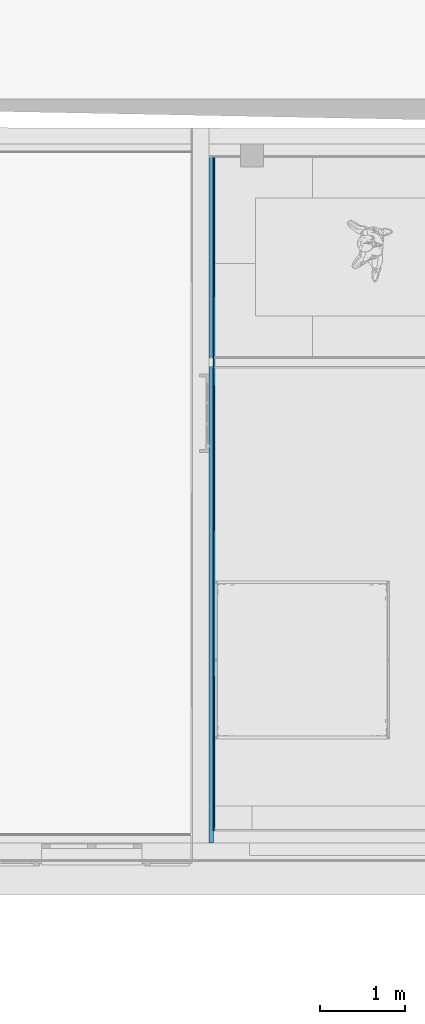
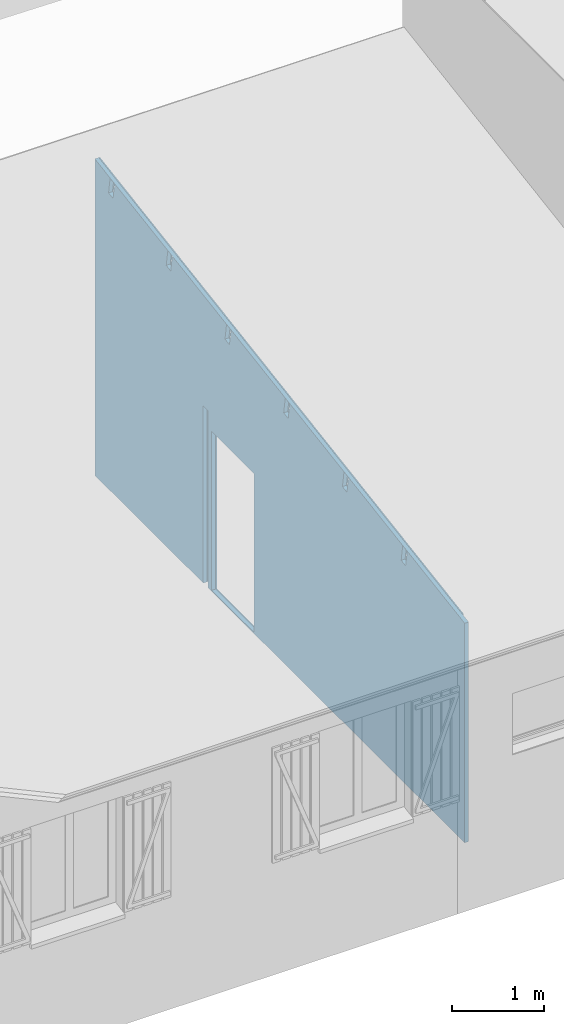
# One storey, part 12 of 24: 2 building element parts, 1 opening, 1 element without a shape of its own.
"""IFC2X3 building model written with IfcOpenShell, lengths in metres."""

from ifc_helpers import new_model, entity, si_unit, converted_unit, derived_unit, money_unit, direction, frame, origin_with_axes, origin_2d_with_axis, place, context, subcontext, project, spatial, polyline, rectangle, outline, extrude, boolean, faceted_brep, material, type_object, element, aggregate, save


model = new_model("IFC2X3")

# Units and contexts
model_context = context("Model", 3, precision=1e-05, world=origin_with_axes(), true_north=direction((0.0, 1.0)))
body_context = subcontext(model_context, "Body", "Model", "MODEL_VIEW")
ifc_project = project(units=[si_unit("LENGTHUNIT", "METRE"), si_unit("AREAUNIT", "SQUARE_METRE"), si_unit("VOLUMEUNIT", "CUBIC_METRE"), converted_unit("PLANEANGLEUNIT", "DEGREE", entity("IfcPlaneAngleMeasure", 0.0174532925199), si_unit("PLANEANGLEUNIT", "RADIAN"), dimensions=[0, 0, 0, 0, 0, 0, 0]), si_unit("SOLIDANGLEUNIT", "STERADIAN"), money_unit("CHF"), converted_unit("TIMEUNIT", "Year", entity("IfcTimeMeasure", 31556926.0), si_unit("TIMEUNIT", "SECOND"), dimensions=[0, 0, 1, 0, 0, 0, 0]), si_unit("MASSUNIT", "GRAM", prefix="KILO"), si_unit("THERMODYNAMICTEMPERATUREUNIT", "DEGREE_CELSIUS"), si_unit("LUMINOUSINTENSITYUNIT", "LUMEN"), si_unit("ENERGYUNIT", "JOULE", prefix="MEGA"), derived_unit("THERMALCONDUCTANCEUNIT", [(si_unit("POWERUNIT", "WATT"), 1), (si_unit("LENGTHUNIT", "METRE"), -1), (si_unit("THERMODYNAMICTEMPERATUREUNIT", "KELVIN"), -1)]), derived_unit("SPECIFICHEATCAPACITYUNIT", [(si_unit("ENERGYUNIT", "JOULE"), 1), (si_unit("MASSUNIT", "GRAM", prefix="KILO"), -1), (si_unit("THERMODYNAMICTEMPERATUREUNIT", "KELVIN"), -1)]), derived_unit("MASSDENSITYUNIT", [(si_unit("MASSUNIT", "GRAM", prefix="KILO"), 1), (si_unit("VOLUMEUNIT", "CUBIC_METRE"), -1)])], contexts=[model_context])

# Site, building, storey
site_placement = place(None, origin_with_axes())
site = spatial("IfcSite", under=ifc_project, at=site_placement, Name="Site", CompositionType="ELEMENT")
building_placement = place(site_placement, origin_with_axes())
building = spatial("IfcBuilding", under=site, at=building_placement, Name="Bâtiment", CompositionType="ELEMENT")
storey_placement = place(building_placement, origin_with_axes())
storey = spatial("IfcBuildingStorey", under=building, at=storey_placement, Name="Rez-de-chaussée", CompositionType="ELEMENT", Elevation=0.0)

# Wall, opening, building element parts
wall_type = type_object("IfcWallType", Name="3.3d - Cloison doublage collé de 5cm 65", PredefinedType="ELEMENTEDWALL")
wall_placement = place(storey_placement, frame((23.6021417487, 7.9529346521, -0.13), z_axis=(0.0, 0.0, 1.0), x_axis=(0.0, 1.0, 0.0)))
wall = element("IfcWall", 1, at=wall_placement, inside=storey, type_object=wall_type, Name="MUR_EXT-011", ObjectType="ELEMENTEDWALL")
opening_placement = place(wall_placement, frame((5.065, 0.0, 0.29), z_axis=(0.0, 0.0, 1.0), x_axis=(1.0, 0.0, 0.0)))
element("IfcOpeningElement", 2, at=opening_placement, cuts=wall, Name="PORTE-007", context=body_context, shape_type="SweptSolid", body=[
    extrude(rectangle(XDim=0.93, YDim=2.12, at=origin_2d_with_axis()), frame((0.0, 0.065, 1.06), z_axis=(0.0, -1.0, 0.0), x_axis=(1.0, 0.0, 0.0)), (0.0, 0.0, 1.0), 0.195),
])
ifc_material_1 = material(Name="Finition int - Plaque de plâtre")
building_element_part_1_placement = place(wall_placement, origin_with_axes())
solid_1 = boolean("DIFFERENCE", boolean("DIFFERENCE", boolean("DIFFERENCE", boolean("DIFFERENCE", boolean("DIFFERENCE", boolean("DIFFERENCE", boolean("DIFFERENCE", boolean("DIFFERENCE", extrude(outline(polyline([(-0.215, -0.065), (8.085, -0.065), (8.085, -0.05), (-0.215, -0.05), (-0.215, -0.065)])), origin_with_axes(), (0.0, 0.0, 1.0), 6.01874511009), faceted_brep([(1.25499229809, -0.05, 3.40376334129), (1.35373643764, -0.05, 3.41956191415), (1.38849329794, -0.05, 3.20232480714), (1.28974915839, -0.05, 3.18652623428), (1.25499229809, -0.065, 3.40376334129), (1.35373643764, -0.065, 3.41956191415), (1.38849329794, -0.065, 3.20232480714), (1.28974915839, -0.065, 3.18652623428)], [[[0, 1, 2, 3]], [[4, 5, 1, 0]], [[5, 6, 2, 1]], [[6, 7, 3, 2]], [[7, 4, 0, 3]], [[4, 7, 6, 5]]])), faceted_brep([(2.53866611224, -0.05, 3.6091447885), (2.63741025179, -0.05, 3.62494336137), (2.67216711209, -0.05, 3.40770625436), (2.57342297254, -0.05, 3.39190768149), (2.53866611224, -0.065, 3.6091447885), (2.63741025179, -0.065, 3.62494336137), (2.67216711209, -0.065, 3.40770625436), (2.57342297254, -0.065, 3.39190768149)], [[[0, 1, 2, 3]], [[4, 5, 1, 0]], [[5, 6, 2, 1]], [[6, 7, 3, 2]], [[7, 4, 0, 3]], [[4, 7, 6, 5]]])), faceted_brep([(3.8223399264, -0.05, 3.81452623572), (3.92108406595, -0.05, 3.83032480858), (3.95584092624, -0.05, 3.61308770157), (3.85709678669, -0.05, 3.59728912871), (3.8223399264, -0.065, 3.81452623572), (3.92108406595, -0.065, 3.83032480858), (3.95584092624, -0.065, 3.61308770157), (3.85709678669, -0.065, 3.59728912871)], [[[0, 1, 2, 3]], [[4, 5, 1, 0]], [[5, 6, 2, 1]], [[6, 7, 3, 2]], [[7, 4, 0, 3]], [[4, 7, 6, 5]]])), faceted_brep([(5.10601374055, -0.05, 4.01990768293), (5.2047578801, -0.05, 4.0357062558), (5.2395147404, -0.05, 3.81846914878), (5.14077060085, -0.05, 3.80267057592), (5.10601374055, -0.065, 4.01990768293), (5.2047578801, -0.065, 4.0357062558), (5.2395147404, -0.065, 3.81846914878), (5.14077060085, -0.065, 3.80267057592)], [[[0, 1, 2, 3]], [[4, 5, 1, 0]], [[5, 6, 2, 1]], [[6, 7, 3, 2]], [[7, 4, 0, 3]], [[4, 7, 6, 5]]])), faceted_brep([(6.3896875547, -0.05, 4.22528913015), (6.48843169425, -0.05, 4.24108770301), (6.52318855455, -0.05, 4.023850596), (6.424444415, -0.05, 4.00805202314), (6.3896875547, -0.065, 4.22528913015), (6.48843169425, -0.065, 4.24108770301), (6.52318855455, -0.065, 4.023850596), (6.424444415, -0.065, 4.00805202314)], [[[0, 1, 2, 3]], [[4, 5, 1, 0]], [[5, 6, 2, 1]], [[6, 7, 3, 2]], [[7, 4, 0, 3]], [[4, 7, 6, 5]]])), faceted_brep([(7.65083260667, -0.05, 4.42706608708), (7.74957674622, -0.05, 4.44286465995), (7.78433360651, -0.05, 4.22562755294), (7.68558946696, -0.05, 4.20982898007), (7.65083260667, -0.065, 4.42706608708), (7.74957674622, -0.065, 4.44286465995), (7.78433360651, -0.065, 4.22562755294), (7.68558946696, -0.065, 4.20982898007)], [[[0, 1, 2, 3]], [[4, 5, 1, 0]], [[5, 6, 2, 1]], [[6, 7, 3, 2]], [[7, 4, 0, 3]], [[4, 7, 6, 5]]])), faceted_brep([(0.140000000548, -0.065, 0.275), (0.140000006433, -0.065, 3.22680000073), (8.085, -0.065, 4.4979999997), (8.085, -0.065, 6.01874511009), (-0.215, -0.065, 6.01874511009), (-0.215, -0.065, 0.0), (8.085, -0.065, 0.0), (8.085, -0.065, 0.275), (5.71440608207, -0.065, 0.275), (5.71440608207, -0.065, 2.63999999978), (5.61440608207, -0.065, 2.63999999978), (5.61440608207, -0.065, 0.275), (0.14000000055, -0.05, 0.275), (0.140000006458, -0.05, 3.22680000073), (8.085, -0.05, 4.4979999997), (8.085, -0.05, 6.01874511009), (-0.215, -0.05, 6.01874511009), (-0.215, -0.05, 0.0), (8.085, -0.05, 0.0), (8.085, -0.05, 0.275), (5.71440608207, -0.05, 0.275), (5.71440608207, -0.05, 2.63999999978), (5.61440608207, -0.05, 2.63999999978), (5.61440608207, -0.05, 0.275)], [[[0, 1, 2, 3, 4, 5, 6, 7, 8, 9, 10, 11]], [[1, 0, 12, 13]], [[14, 2, 1, 13]], [[2, 14, 15, 3]], [[16, 4, 3, 15]], [[16, 17, 5, 4]], [[6, 5, 17, 18]], [[19, 7, 6, 18]], [[8, 7, 19, 20]], [[9, 8, 20, 21]], [[10, 9, 21, 22]], [[11, 10, 22, 23]], [[0, 11, 23, 12]], [[20, 19, 18, 17, 16, 15, 14, 13, 12, 23, 22, 21]]])), faceted_brep([(1.25499229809, 0.0, 3.40376334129), (1.35373643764, 0.0, 3.41956191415), (1.38849329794, 0.0, 3.20232480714), (1.28974915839, 0.0, 3.18652623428), (1.25499229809, -0.05, 3.40376334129), (1.35373643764, -0.05, 3.41956191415), (1.38849329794, -0.05, 3.20232480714), (1.28974915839, -0.05, 3.18652623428)], [[[0, 1, 2, 3]], [[1, 0, 4, 5]], [[2, 1, 5, 6]], [[3, 2, 6, 7]], [[0, 3, 7, 4]], [[4, 7, 6, 5]]]))
building_element_part_1 = element("IfcBuildingElementPart", 3, at=building_element_part_1_placement, material=ifc_material_1, Name="Finition int - Plaque de plâtre", context=body_context, shape_type="CSG", body=[
    boolean("DIFFERENCE", boolean("DIFFERENCE", boolean("DIFFERENCE", boolean("DIFFERENCE", boolean("DIFFERENCE", boolean("DIFFERENCE", solid_1, faceted_brep([(2.53866611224, 0.0, 3.6091447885), (2.63741025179, 0.0, 3.62494336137), (2.67216711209, 0.0, 3.40770625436), (2.57342297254, 0.0, 3.39190768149), (2.53866611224, -0.05, 3.6091447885), (2.63741025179, -0.05, 3.62494336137), (2.67216711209, -0.05, 3.40770625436), (2.57342297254, -0.05, 3.39190768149)], [[[0, 1, 2, 3]], [[1, 0, 4, 5]], [[2, 1, 5, 6]], [[3, 2, 6, 7]], [[0, 3, 7, 4]], [[4, 7, 6, 5]]])), faceted_brep([(3.8223399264, 0.0, 3.81452623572), (3.92108406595, 0.0, 3.83032480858), (3.95584092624, 0.0, 3.61308770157), (3.85709678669, 0.0, 3.59728912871), (3.8223399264, -0.05, 3.81452623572), (3.92108406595, -0.05, 3.83032480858), (3.95584092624, -0.05, 3.61308770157), (3.85709678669, -0.05, 3.59728912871)], [[[0, 1, 2, 3]], [[1, 0, 4, 5]], [[2, 1, 5, 6]], [[3, 2, 6, 7]], [[0, 3, 7, 4]], [[4, 7, 6, 5]]])), faceted_brep([(5.10601374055, 0.0, 4.01990768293), (5.2047578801, 0.0, 4.0357062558), (5.2395147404, 0.0, 3.81846914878), (5.14077060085, 0.0, 3.80267057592), (5.10601374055, -0.05, 4.01990768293), (5.2047578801, -0.05, 4.0357062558), (5.2395147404, -0.05, 3.81846914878), (5.14077060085, -0.05, 3.80267057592)], [[[0, 1, 2, 3]], [[1, 0, 4, 5]], [[2, 1, 5, 6]], [[3, 2, 6, 7]], [[0, 3, 7, 4]], [[4, 7, 6, 5]]])), faceted_brep([(6.3896875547, 0.0, 4.22528913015), (6.48843169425, 0.0, 4.24108770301), (6.52318855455, 0.0, 4.023850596), (6.424444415, 0.0, 4.00805202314), (6.3896875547, -0.05, 4.22528913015), (6.48843169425, -0.05, 4.24108770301), (6.52318855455, -0.05, 4.023850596), (6.424444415, -0.05, 4.00805202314)], [[[0, 1, 2, 3]], [[1, 0, 4, 5]], [[2, 1, 5, 6]], [[3, 2, 6, 7]], [[0, 3, 7, 4]], [[4, 7, 6, 5]]])), faceted_brep([(7.65083260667, 0.0, 4.42706608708), (7.74957674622, 0.0, 4.44286465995), (7.78433360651, 0.0, 4.22562755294), (7.68558946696, 0.0, 4.20982898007), (7.65083260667, -0.05, 4.42706608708), (7.74957674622, -0.05, 4.44286465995), (7.78433360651, -0.05, 4.22562755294), (7.68558946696, -0.05, 4.20982898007)], [[[0, 1, 2, 3]], [[1, 0, 4, 5]], [[2, 1, 5, 6]], [[3, 2, 6, 7]], [[0, 3, 7, 4]], [[4, 7, 6, 5]]])), faceted_brep([(0.0, -0.05, 3.2043999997), (8.085, -0.05, 4.4979999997), (8.085, -0.05, 6.01874511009), (-0.215, -0.05, 6.01874511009), (-0.215, -0.05, 0.0), (8.085, -0.05, 0.0), (8.085, -0.05, 0.275), (5.71440608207, -0.05, 0.275), (5.71440608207, -0.05, 2.63999999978), (5.61440608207, -0.05, 2.63999999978), (5.61440608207, -0.05, 0.275), (0.0, -0.05, 0.275), (8.085, 0.0, 4.4979999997), (0.0, 0.0, 3.2043999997), (8.085, 0.0, 6.01874511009), (-0.215, 0.0, 6.01874511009), (-0.215, 0.0, 0.0), (8.085, 0.0, 0.0), (8.085, 0.0, 0.275), (5.71440608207, 0.0, 0.275), (5.71440608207, -3.70959689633e-08, 2.63999999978), (5.61440608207, -3.64703396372e-08, 2.63999999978), (5.61440608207, 0.0, 0.275), (0.0, 0.0, 0.275)], [[[0, 1, 2, 3, 4, 5, 6, 7, 8, 9, 10, 11]], [[12, 1, 0, 13]], [[1, 12, 14, 2]], [[15, 3, 2, 14]], [[15, 16, 4, 3]], [[5, 4, 16, 17]], [[18, 6, 5, 17]], [[6, 18, 19, 7]], [[19, 20, 8, 7]], [[20, 21, 9, 8]], [[21, 22, 10, 9]], [[11, 10, 22, 23]], [[0, 11, 23, 13]], [[19, 18, 17, 16, 15, 14, 12, 13, 23, 22, 21, 20]]])),
])
ifc_material_2 = material(Name="Cloison - Isolation")
building_element_part_2_placement = place(wall_placement, origin_with_axes())
solid_2 = boolean("DIFFERENCE", boolean("DIFFERENCE", boolean("DIFFERENCE", boolean("DIFFERENCE", boolean("DIFFERENCE", boolean("DIFFERENCE", boolean("DIFFERENCE", boolean("DIFFERENCE", extrude(outline(polyline([(-0.215, -0.05), (8.085, -0.05), (8.085, 0.0), (-0.215, 0.0), (-0.215, -0.05)])), origin_with_axes(), (0.0, 0.0, 1.0), 6.01874511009), faceted_brep([(1.25499229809, -0.05, 3.40376334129), (1.35373643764, -0.05, 3.41956191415), (1.38849329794, -0.05, 3.20232480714), (1.28974915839, -0.05, 3.18652623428), (1.25499229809, -0.065, 3.40376334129), (1.35373643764, -0.065, 3.41956191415), (1.38849329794, -0.065, 3.20232480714), (1.28974915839, -0.065, 3.18652623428)], [[[0, 1, 2, 3]], [[4, 5, 1, 0]], [[5, 6, 2, 1]], [[6, 7, 3, 2]], [[7, 4, 0, 3]], [[4, 7, 6, 5]]])), faceted_brep([(2.53866611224, -0.05, 3.6091447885), (2.63741025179, -0.05, 3.62494336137), (2.67216711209, -0.05, 3.40770625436), (2.57342297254, -0.05, 3.39190768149), (2.53866611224, -0.065, 3.6091447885), (2.63741025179, -0.065, 3.62494336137), (2.67216711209, -0.065, 3.40770625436), (2.57342297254, -0.065, 3.39190768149)], [[[0, 1, 2, 3]], [[4, 5, 1, 0]], [[5, 6, 2, 1]], [[6, 7, 3, 2]], [[7, 4, 0, 3]], [[4, 7, 6, 5]]])), faceted_brep([(3.8223399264, -0.05, 3.81452623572), (3.92108406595, -0.05, 3.83032480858), (3.95584092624, -0.05, 3.61308770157), (3.85709678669, -0.05, 3.59728912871), (3.8223399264, -0.065, 3.81452623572), (3.92108406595, -0.065, 3.83032480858), (3.95584092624, -0.065, 3.61308770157), (3.85709678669, -0.065, 3.59728912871)], [[[0, 1, 2, 3]], [[4, 5, 1, 0]], [[5, 6, 2, 1]], [[6, 7, 3, 2]], [[7, 4, 0, 3]], [[4, 7, 6, 5]]])), faceted_brep([(5.10601374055, -0.05, 4.01990768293), (5.2047578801, -0.05, 4.0357062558), (5.2395147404, -0.05, 3.81846914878), (5.14077060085, -0.05, 3.80267057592), (5.10601374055, -0.065, 4.01990768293), (5.2047578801, -0.065, 4.0357062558), (5.2395147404, -0.065, 3.81846914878), (5.14077060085, -0.065, 3.80267057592)], [[[0, 1, 2, 3]], [[4, 5, 1, 0]], [[5, 6, 2, 1]], [[6, 7, 3, 2]], [[7, 4, 0, 3]], [[4, 7, 6, 5]]])), faceted_brep([(6.3896875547, -0.05, 4.22528913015), (6.48843169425, -0.05, 4.24108770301), (6.52318855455, -0.05, 4.023850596), (6.424444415, -0.05, 4.00805202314), (6.3896875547, -0.065, 4.22528913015), (6.48843169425, -0.065, 4.24108770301), (6.52318855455, -0.065, 4.023850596), (6.424444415, -0.065, 4.00805202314)], [[[0, 1, 2, 3]], [[4, 5, 1, 0]], [[5, 6, 2, 1]], [[6, 7, 3, 2]], [[7, 4, 0, 3]], [[4, 7, 6, 5]]])), faceted_brep([(7.65083260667, -0.05, 4.42706608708), (7.74957674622, -0.05, 4.44286465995), (7.78433360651, -0.05, 4.22562755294), (7.68558946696, -0.05, 4.20982898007), (7.65083260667, -0.065, 4.42706608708), (7.74957674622, -0.065, 4.44286465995), (7.78433360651, -0.065, 4.22562755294), (7.68558946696, -0.065, 4.20982898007)], [[[0, 1, 2, 3]], [[4, 5, 1, 0]], [[5, 6, 2, 1]], [[6, 7, 3, 2]], [[7, 4, 0, 3]], [[4, 7, 6, 5]]])), faceted_brep([(0.140000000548, -0.065, 0.275), (0.140000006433, -0.065, 3.22680000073), (8.085, -0.065, 4.4979999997), (8.085, -0.065, 6.01874511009), (-0.215, -0.065, 6.01874511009), (-0.215, -0.065, 0.0), (8.085, -0.065, 0.0), (8.085, -0.065, 0.275), (5.71440608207, -0.065, 0.275), (5.71440608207, -0.065, 2.63999999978), (5.61440608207, -0.065, 2.63999999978), (5.61440608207, -0.065, 0.275), (0.14000000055, -0.05, 0.275), (0.140000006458, -0.05, 3.22680000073), (8.085, -0.05, 4.4979999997), (8.085, -0.05, 6.01874511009), (-0.215, -0.05, 6.01874511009), (-0.215, -0.05, 0.0), (8.085, -0.05, 0.0), (8.085, -0.05, 0.275), (5.71440608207, -0.05, 0.275), (5.71440608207, -0.05, 2.63999999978), (5.61440608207, -0.05, 2.63999999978), (5.61440608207, -0.05, 0.275)], [[[0, 1, 2, 3, 4, 5, 6, 7, 8, 9, 10, 11]], [[1, 0, 12, 13]], [[14, 2, 1, 13]], [[2, 14, 15, 3]], [[16, 4, 3, 15]], [[16, 17, 5, 4]], [[6, 5, 17, 18]], [[19, 7, 6, 18]], [[8, 7, 19, 20]], [[9, 8, 20, 21]], [[10, 9, 21, 22]], [[11, 10, 22, 23]], [[0, 11, 23, 12]], [[20, 19, 18, 17, 16, 15, 14, 13, 12, 23, 22, 21]]])), faceted_brep([(1.25499229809, 0.0, 3.40376334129), (1.35373643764, 0.0, 3.41956191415), (1.38849329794, 0.0, 3.20232480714), (1.28974915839, 0.0, 3.18652623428), (1.25499229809, -0.05, 3.40376334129), (1.35373643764, -0.05, 3.41956191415), (1.38849329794, -0.05, 3.20232480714), (1.28974915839, -0.05, 3.18652623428)], [[[0, 1, 2, 3]], [[1, 0, 4, 5]], [[2, 1, 5, 6]], [[3, 2, 6, 7]], [[0, 3, 7, 4]], [[4, 7, 6, 5]]]))
building_element_part_2 = element("IfcBuildingElementPart", 4, at=building_element_part_2_placement, material=ifc_material_2, Name="Cloison - Isolation", context=body_context, shape_type="CSG", body=[
    boolean("DIFFERENCE", boolean("DIFFERENCE", boolean("DIFFERENCE", boolean("DIFFERENCE", boolean("DIFFERENCE", boolean("DIFFERENCE", solid_2, faceted_brep([(2.53866611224, 0.0, 3.6091447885), (2.63741025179, 0.0, 3.62494336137), (2.67216711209, 0.0, 3.40770625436), (2.57342297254, 0.0, 3.39190768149), (2.53866611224, -0.05, 3.6091447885), (2.63741025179, -0.05, 3.62494336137), (2.67216711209, -0.05, 3.40770625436), (2.57342297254, -0.05, 3.39190768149)], [[[0, 1, 2, 3]], [[1, 0, 4, 5]], [[2, 1, 5, 6]], [[3, 2, 6, 7]], [[0, 3, 7, 4]], [[4, 7, 6, 5]]])), faceted_brep([(3.8223399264, 0.0, 3.81452623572), (3.92108406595, 0.0, 3.83032480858), (3.95584092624, 0.0, 3.61308770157), (3.85709678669, 0.0, 3.59728912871), (3.8223399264, -0.05, 3.81452623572), (3.92108406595, -0.05, 3.83032480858), (3.95584092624, -0.05, 3.61308770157), (3.85709678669, -0.05, 3.59728912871)], [[[0, 1, 2, 3]], [[1, 0, 4, 5]], [[2, 1, 5, 6]], [[3, 2, 6, 7]], [[0, 3, 7, 4]], [[4, 7, 6, 5]]])), faceted_brep([(5.10601374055, 0.0, 4.01990768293), (5.2047578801, 0.0, 4.0357062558), (5.2395147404, 0.0, 3.81846914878), (5.14077060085, 0.0, 3.80267057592), (5.10601374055, -0.05, 4.01990768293), (5.2047578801, -0.05, 4.0357062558), (5.2395147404, -0.05, 3.81846914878), (5.14077060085, -0.05, 3.80267057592)], [[[0, 1, 2, 3]], [[1, 0, 4, 5]], [[2, 1, 5, 6]], [[3, 2, 6, 7]], [[0, 3, 7, 4]], [[4, 7, 6, 5]]])), faceted_brep([(6.3896875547, 0.0, 4.22528913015), (6.48843169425, 0.0, 4.24108770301), (6.52318855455, 0.0, 4.023850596), (6.424444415, 0.0, 4.00805202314), (6.3896875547, -0.05, 4.22528913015), (6.48843169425, -0.05, 4.24108770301), (6.52318855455, -0.05, 4.023850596), (6.424444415, -0.05, 4.00805202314)], [[[0, 1, 2, 3]], [[1, 0, 4, 5]], [[2, 1, 5, 6]], [[3, 2, 6, 7]], [[0, 3, 7, 4]], [[4, 7, 6, 5]]])), faceted_brep([(7.65083260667, 0.0, 4.42706608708), (7.74957674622, 0.0, 4.44286465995), (7.78433360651, 0.0, 4.22562755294), (7.68558946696, 0.0, 4.20982898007), (7.65083260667, -0.05, 4.42706608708), (7.74957674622, -0.05, 4.44286465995), (7.78433360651, -0.05, 4.22562755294), (7.68558946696, -0.05, 4.20982898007)], [[[0, 1, 2, 3]], [[1, 0, 4, 5]], [[2, 1, 5, 6]], [[3, 2, 6, 7]], [[0, 3, 7, 4]], [[4, 7, 6, 5]]])), faceted_brep([(0.0, -0.05, 3.2043999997), (8.085, -0.05, 4.4979999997), (8.085, -0.05, 6.01874511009), (-0.215, -0.05, 6.01874511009), (-0.215, -0.05, 0.0), (8.085, -0.05, 0.0), (8.085, -0.05, 0.275), (5.71440608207, -0.05, 0.275), (5.71440608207, -0.05, 2.63999999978), (5.61440608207, -0.05, 2.63999999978), (5.61440608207, -0.05, 0.275), (0.0, -0.05, 0.275), (8.085, 0.0, 4.4979999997), (0.0, 0.0, 3.2043999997), (8.085, 0.0, 6.01874511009), (-0.215, 0.0, 6.01874511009), (-0.215, 0.0, 0.0), (8.085, 0.0, 0.0), (8.085, 0.0, 0.275), (5.71440608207, 0.0, 0.275), (5.71440608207, -3.70959689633e-08, 2.63999999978), (5.61440608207, -3.64703396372e-08, 2.63999999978), (5.61440608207, 0.0, 0.275), (0.0, 0.0, 0.275)], [[[0, 1, 2, 3, 4, 5, 6, 7, 8, 9, 10, 11]], [[12, 1, 0, 13]], [[1, 12, 14, 2]], [[15, 3, 2, 14]], [[15, 16, 4, 3]], [[5, 4, 16, 17]], [[18, 6, 5, 17]], [[6, 18, 19, 7]], [[19, 20, 8, 7]], [[20, 21, 9, 8]], [[21, 22, 10, 9]], [[11, 10, 22, 23]], [[0, 11, 23, 13]], [[19, 18, 17, 16, 15, 14, 12, 13, 23, 22, 21, 20]]])),
])
aggregate(wall, [building_element_part_1, building_element_part_2])

save(model, "model.ifc")
